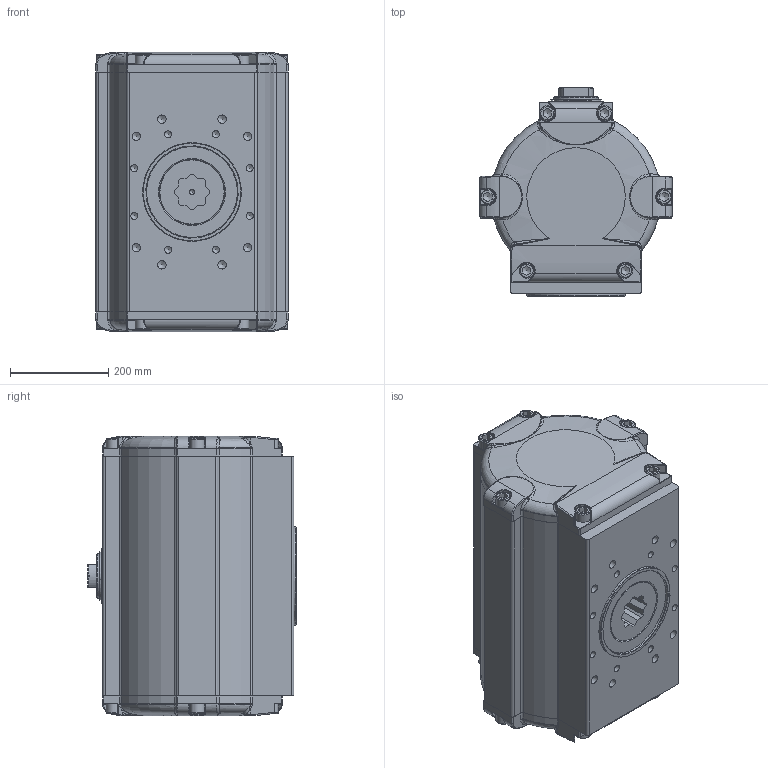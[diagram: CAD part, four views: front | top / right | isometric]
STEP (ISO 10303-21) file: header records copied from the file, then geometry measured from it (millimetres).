
FILE_DESCRIPTION((''),'2;1');
FILE_NAME('Z:\DOKUMENTATION ANTRIEBSPROGRAMM\Antriebe (neu)\BR16_SAD_SAF_90°\STEP-Dateien\50\SAD_50_BR16.stp','2017-06-27T09:14:51',('vmi'),(''),'Autodesk Inventor 2013','Autodesk Inventor 2013','');
FILE_SCHEMA(('AUTOMOTIVE_DESIGN { 1 0 10303 214 1 1 1 1 }'));
Length unit declared in the file: millimetre
Products named in the file (1): ENG-084104_Shrinkwrap_1
Bounding box: 390 x 423 x 567 mm (x, y, z)
Surface area: 1172943.4 mm2 (no closed solid volume)
Topology: 0 solids, 37 shells, 571 faces, 1919 edges, 1316 vertices
Faces by surface type: plane 213, cylinder 150, bspline 128, cone 43, torus 37
Full cylindrical faces by diameter (mm): 4.134 x4, 4.917 x4, 10 x1, 13.835 x2, 14.376 x8, 17.294 x8, 18.631 x2, 30 x12, 70 x1, 84.9 x1, 89.6 x1, 110 x1, 185.5 x1, 199.75 x1
Entity records: 30424 total; most frequent: CARTESIAN_POINT 14940, DIRECTION 2815, ORIENTED_EDGE 2787, EDGE_CURVE 1766, VERTEX_POINT 1271, AXIS2_PLACEMENT_3D 1114, EDGE_LOOP 730, CIRCLE 622
